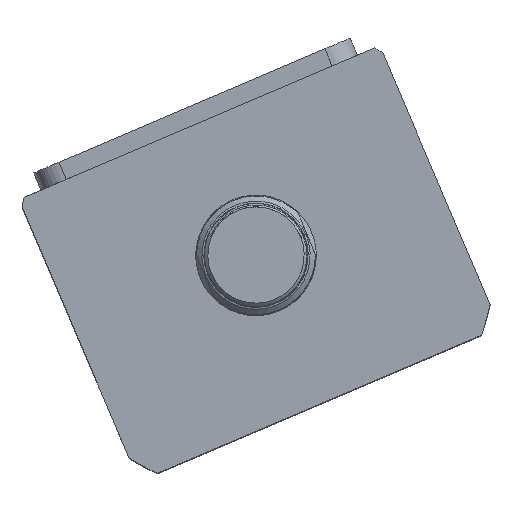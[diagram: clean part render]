
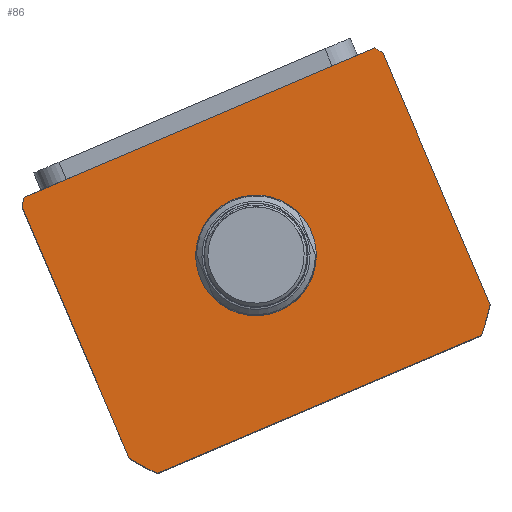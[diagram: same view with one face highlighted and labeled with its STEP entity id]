
A CAD part, top view. The second image highlights one B-rep face of the part: STEP entity #86.
In plain terms, the highlighted planar face has unit normal (0, 0, 1) as drawn and (0, 0, -1) by its records, which use the part's own axes.
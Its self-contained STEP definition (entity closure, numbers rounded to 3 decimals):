
#86 = ADVANCED_FACE ( 'NONE', ( #1815, #6849 ), #2856, .F. ) ;
#366 = VERTEX_POINT ( 'NONE', #6041 ) ;
#674 = DIRECTION ( 'NONE',  ( 0., 0., 1. ) ) ;
#997 = CARTESIAN_POINT ( 'NONE',  ( -57., -106.497, 0. ) ) ;
#1815 = FACE_BOUND ( 'NONE', #3773, .T. ) ;
#2830 = EDGE_CURVE ( 'NONE', #15281, #13163, #18364, .T. ) ;
#2838 = CARTESIAN_POINT ( 'NONE',  ( 0., -59.497, 0. ) ) ;
#2856 = PLANE ( 'NONE',  #10963 ) ;
#2974 = CARTESIAN_POINT ( 'NONE',  ( -17.5, -59.497, 0. ) ) ;
#3773 = EDGE_LOOP ( 'NONE', ( #15606, #21499 ) ) ;
#3987 = DIRECTION ( 'NONE',  ( -1., 0., 0. ) ) ;
#4285 = DIRECTION ( 'NONE',  ( 0., 0., 1. ) ) ;
#4533 = VERTEX_POINT ( 'NONE', #6967 ) ;
#4848 = VECTOR ( 'NONE', #3987, 1000. ) ;
#5006 = DIRECTION ( 'NONE',  ( 1., 0., 0. ) ) ;
#5022 = CARTESIAN_POINT ( 'NONE',  ( 0., 0., 0. ) ) ;
#5092 = CARTESIAN_POINT ( 'NONE',  ( 0., -59.497, 0. ) ) ;
#5723 = EDGE_LOOP ( 'NONE', ( #6593, #26563, #7271, #26371, #14199, #18913, #13066, #22640 ) ) ;
#5910 = EDGE_CURVE ( 'NONE', #21204, #20465, #11928, .T. ) ;
#6041 = CARTESIAN_POINT ( 'NONE',  ( 17.5, -59.497, 0. ) ) ;
#6207 = CARTESIAN_POINT ( 'NONE',  ( 57., -17.497, 0. ) ) ;
#6279 = DIRECTION ( 'NONE',  ( 0., 0., 1. ) ) ;
#6593 = ORIENTED_EDGE ( 'NONE', *, *, #23215, .F. ) ;
#6638 = CIRCLE ( 'NONE', #15681, 17.5 ) ;
#6849 = FACE_OUTER_BOUND ( 'NONE', #5723, .T. ) ;
#6967 = CARTESIAN_POINT ( 'NONE',  ( 57., -19.732, 0. ) ) ;
#7045 = VECTOR ( 'NONE', #16055, 1000. ) ;
#7188 = DIRECTION ( 'NONE',  ( 1., 0., 0. ) ) ;
#7262 = DIRECTION ( 'NONE',  ( 1., 0., 0. ) ) ;
#7271 = ORIENTED_EDGE ( 'NONE', *, *, #2830, .F. ) ;
#7893 = EDGE_CURVE ( 'NONE', #366, #12764, #6638, .T. ) ;
#8966 = EDGE_CURVE ( 'NONE', #22059, #20534, #25805, .T. ) ;
#8985 = VECTOR ( 'NONE', #10616, 1000. ) ;
#9268 = VECTOR ( 'NONE', #24384, 1000. ) ;
#9512 = CARTESIAN_POINT ( 'NONE',  ( -55.374, -17.497, 0. ) ) ;
#9813 = CARTESIAN_POINT ( 'NONE',  ( 57., -99.262, 0. ) ) ;
#9828 = CARTESIAN_POINT ( 'NONE',  ( 0., -59.497, 0. ) ) ;
#9867 = CIRCLE ( 'NONE', #16588, 69.5 ) ;
#10616 = DIRECTION ( 'NONE',  ( 0., 1., 0. ) ) ;
#10963 = AXIS2_PLACEMENT_3D ( 'NONE', #5022, #674, #7188 ) ;
#11810 = DIRECTION ( 'NONE',  ( 0., 0., 1. ) ) ;
#11928 = LINE ( 'NONE', #23279, #4848 ) ;
#11997 = DIRECTION ( 'NONE',  ( 1., 0., 0. ) ) ;
#12152 = CARTESIAN_POINT ( 'NONE',  ( -51.198, -106.497, 0. ) ) ;
#12764 = VERTEX_POINT ( 'NONE', #2974 ) ;
#12800 = LINE ( 'NONE', #997, #7045 ) ;
#13066 = ORIENTED_EDGE ( 'NONE', *, *, #26252, .F. ) ;
#13163 = VERTEX_POINT ( 'NONE', #9813 ) ;
#13393 = CIRCLE ( 'NONE', #17811, 17.5 ) ;
#14199 = ORIENTED_EDGE ( 'NONE', *, *, #8966, .F. ) ;
#14369 = LINE ( 'NONE', #26564, #9268 ) ;
#14760 = LINE ( 'NONE', #6207, #8985 ) ;
#15264 = CARTESIAN_POINT ( 'NONE',  ( -57., -99.262, 0. ) ) ;
#15281 = VERTEX_POINT ( 'NONE', #15757 ) ;
#15606 = ORIENTED_EDGE ( 'NONE', *, *, #7893, .T. ) ;
#15681 = AXIS2_PLACEMENT_3D ( 'NONE', #24698, #11810, #26858 ) ;
#15757 = CARTESIAN_POINT ( 'NONE',  ( 51.198, -106.497, 0. ) ) ;
#16055 = DIRECTION ( 'NONE',  ( 1., 0., 0. ) ) ;
#16068 = AXIS2_PLACEMENT_3D ( 'NONE', #19172, #6279, #21320 ) ;
#16588 = AXIS2_PLACEMENT_3D ( 'NONE', #5092, #20144, #7262 ) ;
#17174 = CARTESIAN_POINT ( 'NONE',  ( 0., -59.497, 0. ) ) ;
#17811 = AXIS2_PLACEMENT_3D ( 'NONE', #17174, #4285, #19344 ) ;
#17819 = EDGE_CURVE ( 'NONE', #12764, #366, #13393, .T. ) ;
#17884 = DIRECTION ( 'NONE',  ( 0., 0., 1. ) ) ;
#18364 = CIRCLE ( 'NONE', #23429, 69.5 ) ;
#18913 = ORIENTED_EDGE ( 'NONE', *, *, #21426, .F. ) ;
#19172 = CARTESIAN_POINT ( 'NONE',  ( 0., -59.497, 0. ) ) ;
#19263 = EDGE_CURVE ( 'NONE', #13163, #4533, #14760, .T. ) ;
#19344 = DIRECTION ( 'NONE',  ( 1., 0., 0. ) ) ;
#20144 = DIRECTION ( 'NONE',  ( 0., 0., 1. ) ) ;
#20465 = VERTEX_POINT ( 'NONE', #9512 ) ;
#20490 = CIRCLE ( 'NONE', #26082, 69.5 ) ;
#20534 = VERTEX_POINT ( 'NONE', #12152 ) ;
#21204 = VERTEX_POINT ( 'NONE', #23943 ) ;
#21320 = DIRECTION ( 'NONE',  ( 1., 0., 0. ) ) ;
#21426 = EDGE_CURVE ( 'NONE', #24758, #22059, #14369, .T. ) ;
#21499 = ORIENTED_EDGE ( 'NONE', *, *, #17819, .T. ) ;
#22059 = VERTEX_POINT ( 'NONE', #15264 ) ;
#22640 = ORIENTED_EDGE ( 'NONE', *, *, #5910, .F. ) ;
#23215 = EDGE_CURVE ( 'NONE', #4533, #21204, #20490, .T. ) ;
#23279 = CARTESIAN_POINT ( 'NONE',  ( -57., -17.497, 0. ) ) ;
#23429 = AXIS2_PLACEMENT_3D ( 'NONE', #2838, #17884, #5006 ) ;
#23821 = CARTESIAN_POINT ( 'NONE',  ( -57., -19.732, 0. ) ) ;
#23943 = CARTESIAN_POINT ( 'NONE',  ( 55.374, -17.497, 0. ) ) ;
#24081 = EDGE_CURVE ( 'NONE', #20534, #15281, #12800, .T. ) ;
#24384 = DIRECTION ( 'NONE',  ( 0., -1., 0. ) ) ;
#24698 = CARTESIAN_POINT ( 'NONE',  ( 0., -59.497, 0. ) ) ;
#24758 = VERTEX_POINT ( 'NONE', #23821 ) ;
#24878 = DIRECTION ( 'NONE',  ( 0., 0., 1. ) ) ;
#25805 = CIRCLE ( 'NONE', #16068, 69.5 ) ;
#26082 = AXIS2_PLACEMENT_3D ( 'NONE', #9828, #24878, #11997 ) ;
#26252 = EDGE_CURVE ( 'NONE', #20465, #24758, #9867, .T. ) ;
#26371 = ORIENTED_EDGE ( 'NONE', *, *, #24081, .F. ) ;
#26563 = ORIENTED_EDGE ( 'NONE', *, *, #19263, .F. ) ;
#26564 = CARTESIAN_POINT ( 'NONE',  ( -57., -17.497, 0. ) ) ;
#26858 = DIRECTION ( 'NONE',  ( 1., 0., 0. ) ) ;
